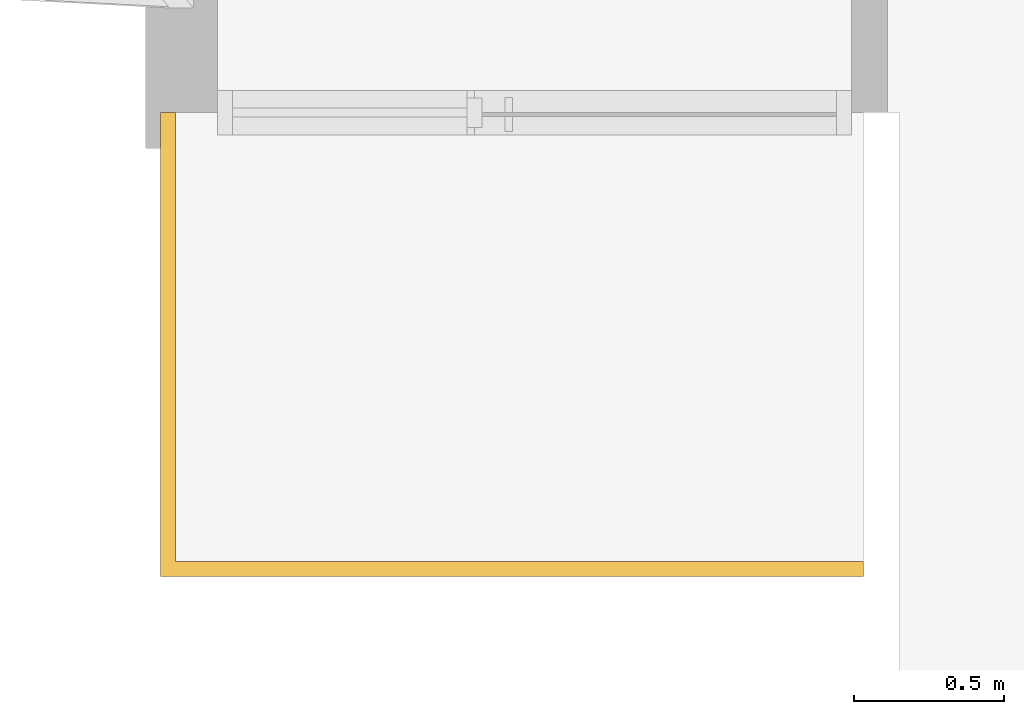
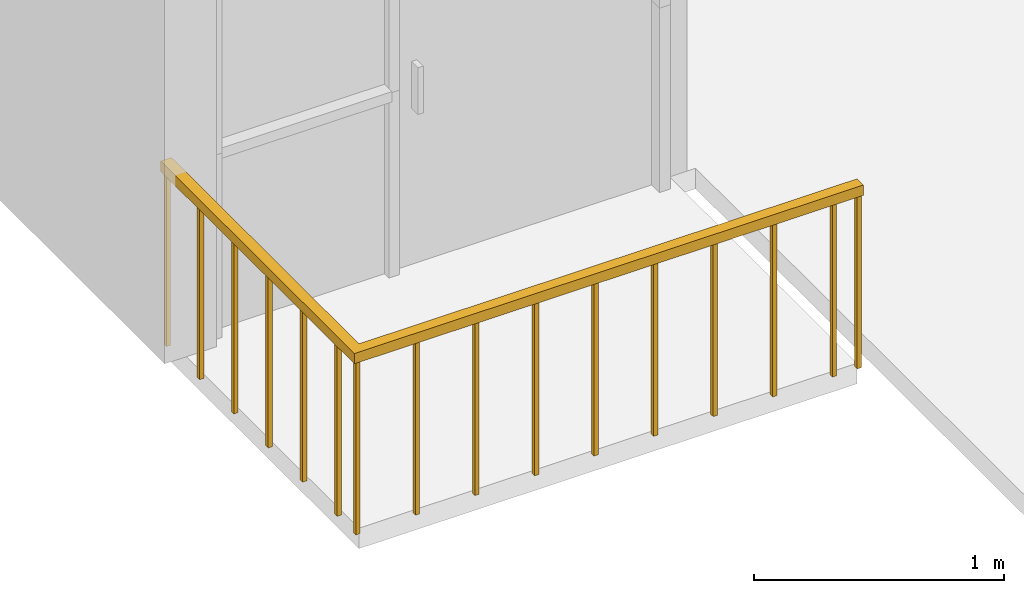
# One storey, part 32 of 33: 1 railing.
"""IFC2X3 building model written with IfcOpenShell, lengths in millimetres."""

from ifc_helpers import new_model, entity, si_unit, converted_unit, derived_unit, direction, frame, origin, place, context, subcontext, project, spatial, faceted_brep, material, element, save


model = new_model("IFC2X3")

# Units and contexts
model_context = context("Model", 3, precision=0.01, world=origin(), true_north=direction((6.12303176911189e-17, 1.0)))
body_context = subcontext(model_context, "Body", "Model", "MODEL_VIEW")
ifc_project = project(units=[si_unit("LENGTHUNIT", "METRE", prefix="MILLI"), si_unit("AREAUNIT", "SQUARE_METRE"), si_unit("VOLUMEUNIT", "CUBIC_METRE"), converted_unit("PLANEANGLEUNIT", "DEGREE", entity("IfcRatioMeasure", 0.0174532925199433), si_unit("PLANEANGLEUNIT", "RADIAN"), dimensions=[0, 0, 0, 0, 0, 0, 0]), si_unit("MASSUNIT", "GRAM", prefix="KILO"), derived_unit("MASSDENSITYUNIT", [(si_unit("MASSUNIT", "GRAM", prefix="KILO"), 1), (si_unit("LENGTHUNIT", "METRE"), -3)]), si_unit("TIMEUNIT", "SECOND"), si_unit("FREQUENCYUNIT", "HERTZ"), si_unit("THERMODYNAMICTEMPERATUREUNIT", "DEGREE_CELSIUS"), derived_unit("THERMALTRANSMITTANCEUNIT", [(si_unit("MASSUNIT", "GRAM", prefix="KILO"), 1), (si_unit("THERMODYNAMICTEMPERATUREUNIT", "KELVIN"), -1), (si_unit("TIMEUNIT", "SECOND"), -3)]), derived_unit("VOLUMETRICFLOWRATEUNIT", [(si_unit("LENGTHUNIT", "METRE"), 3), (si_unit("TIMEUNIT", "SECOND"), -1)]), si_unit("ELECTRICCURRENTUNIT", "AMPERE"), si_unit("ELECTRICVOLTAGEUNIT", "VOLT"), si_unit("POWERUNIT", "WATT"), si_unit("FORCEUNIT", "NEWTON", prefix="KILO"), si_unit("ILLUMINANCEUNIT", "LUX"), si_unit("LUMINOUSFLUXUNIT", "LUMEN"), si_unit("LUMINOUSINTENSITYUNIT", "CANDELA"), derived_unit("USERDEFINED", [(si_unit("MASSUNIT", "GRAM", prefix="KILO"), -1), (si_unit("LENGTHUNIT", "METRE"), -2), (si_unit("TIMEUNIT", "SECOND"), 3), (si_unit("LUMINOUSFLUXUNIT", "LUMEN"), 1)]), derived_unit("LINEARVELOCITYUNIT", [(si_unit("LENGTHUNIT", "METRE"), 1), (si_unit("TIMEUNIT", "SECOND"), -1)]), si_unit("PRESSUREUNIT", "PASCAL"), derived_unit("USERDEFINED", [(si_unit("LENGTHUNIT", "METRE"), -2), (si_unit("MASSUNIT", "GRAM", prefix="KILO"), 1), (si_unit("TIMEUNIT", "SECOND"), -2)])], contexts=[model_context])

# Site, building, storey
site_placement = place(None, origin())
site = spatial("IfcSite", under=ifc_project, at=site_placement, Name="表面", CompositionType="ELEMENT")
building_placement = place(site_placement, origin())
building = spatial("IfcBuilding", under=site, at=building_placement, CompositionType="ELEMENT")
storey_placement = place(building_placement, frame((0.0, 0.0, 6000.0)))
storey = spatial("IfcBuildingStorey", under=building, at=storey_placement, Name="3F", CompositionType="ELEMENT", Elevation=6000.00000000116)

# Railing
ifc_material = material(Name="不锈钢")
railing_placement = place(storey_placement, frame((-14500.2499126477, -30966.868426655, 0.0)))
element("IfcRailing", 1, at=railing_placement, inside=storey, material=ifc_material, Name="栏杆扶手:900mm", ObjectType="栏杆扶手:900mm", PredefinedType="NOTDEFINED", context=body_context, shape_type="Brep", body=[
    faceted_brep([(2215.0, 35.0, 850.0), (2215.0, 35.0, 0.0), (2215.0, 15.0, 0.0), (2215.0, 15.0, 850.0), (2235.0, 15.0, 0.0), (2235.0, 15.0, 850.0), (2235.0, 35.0, 0.0), (2235.0, 35.0, 850.0)], [[[0, 1, 2, 3]], [[3, 2, 4, 5]], [[5, 4, 6, 7]], [[1, 0, 7, 6]], [[0, 3, 5, 7]], [[2, 1, 6, 4]]]),
    faceted_brep([(1940.0, 35.0, 850.0), (1940.0, 35.0, 0.0), (1940.0, 15.0, 0.0), (1940.0, 15.0, 850.0), (1960.0, 15.0, 0.0), (1960.0, 15.0, 850.0), (1960.0, 35.0, 0.0), (1960.0, 35.0, 850.0)], [[[0, 1, 2, 3]], [[3, 2, 4, 5]], [[5, 4, 6, 7]], [[1, 0, 7, 6]], [[0, 3, 5, 7]], [[2, 1, 6, 4]]]),
    faceted_brep([(1665.0, 35.0, 850.0), (1665.0, 35.0, 0.0), (1665.0, 15.0, 0.0), (1665.0, 15.0, 850.0), (1685.0, 15.0, 0.0), (1685.0, 15.0, 850.0), (1685.0, 35.0, 0.0), (1685.0, 35.0, 850.0)], [[[0, 1, 2, 3]], [[3, 2, 4, 5]], [[5, 4, 6, 7]], [[1, 0, 7, 6]], [[0, 3, 5, 7]], [[2, 1, 6, 4]]]),
    faceted_brep([(1390.0, 35.0, 850.0), (1390.0, 35.0, 0.0), (1390.0, 15.0, 0.0), (1390.0, 15.0, 850.0), (1410.0, 15.0, 0.0), (1410.0, 15.0, 850.0), (1410.0, 35.0, 0.0), (1410.0, 35.0, 850.0)], [[[0, 1, 2, 3]], [[3, 2, 4, 5]], [[5, 4, 6, 7]], [[1, 0, 7, 6]], [[0, 3, 5, 7]], [[2, 1, 6, 4]]]),
    faceted_brep([(1115.0, 35.0, 850.0), (1115.0, 35.0, 0.0), (1115.0, 15.0, 0.0), (1115.0, 15.0, 850.0), (1135.0, 15.0, 0.0), (1135.0, 15.0, 850.0), (1135.0, 35.0, 0.0), (1135.0, 35.0, 850.0)], [[[0, 1, 2, 3]], [[3, 2, 4, 5]], [[5, 4, 6, 7]], [[1, 0, 7, 6]], [[0, 3, 5, 7]], [[2, 1, 6, 4]]]),
    faceted_brep([(840.0, 35.0, 850.0), (840.0, 35.0, 0.0), (840.0, 15.0, 0.0), (840.0, 15.0, 850.0), (860.0, 15.0, 0.0), (860.0, 15.0, 850.0), (860.0, 35.0, 0.0), (860.0, 35.0, 850.0)], [[[0, 1, 2, 3]], [[3, 2, 4, 5]], [[5, 4, 6, 7]], [[1, 0, 7, 6]], [[0, 3, 5, 7]], [[2, 1, 6, 4]]]),
    faceted_brep([(565.0, 35.0, 850.0), (565.0, 35.0, 0.0), (565.0, 15.0, 0.0), (565.0, 15.0, 850.0), (585.0, 15.0, 0.0), (585.0, 15.0, 850.0), (585.0, 35.0, 0.0), (585.0, 35.0, 850.0)], [[[0, 1, 2, 3]], [[3, 2, 4, 5]], [[5, 4, 6, 7]], [[1, 0, 7, 6]], [[0, 3, 5, 7]], [[2, 1, 6, 4]]]),
    faceted_brep([(290.0, 35.0, 850.0), (290.0, 35.0, 0.0), (290.0, 15.0, 0.0), (290.0, 15.0, 850.0), (310.0, 15.0, 0.0), (310.0, 15.0, 850.0), (310.0, 35.0, 0.0), (310.0, 35.0, 850.0)], [[[0, 1, 2, 3]], [[3, 2, 4, 5]], [[5, 4, 6, 7]], [[1, 0, 7, 6]], [[0, 3, 5, 7]], [[2, 1, 6, 4]]]),
    faceted_brep([(35.0, 185.0, 850.0), (35.0, 185.0, 0.0), (15.0, 185.0, 0.0), (15.0, 185.0, 850.0), (15.0, 165.0, 0.0), (15.0, 165.0, 850.0), (35.0, 165.0, 0.0), (35.0, 165.0, 850.0)], [[[0, 1, 2, 3]], [[3, 2, 4, 5]], [[5, 4, 6, 7]], [[1, 0, 7, 6]], [[0, 3, 5, 7]], [[2, 1, 6, 4]]]),
    faceted_brep([(35.0, 460.0, 850.0), (35.0, 460.0, 0.0), (15.0, 460.0, 0.0), (15.0, 460.0, 850.0), (15.0, 440.0, 0.0), (15.0, 440.0, 850.0), (35.0, 440.0, 0.0), (35.0, 440.0, 850.0)], [[[0, 1, 2, 3]], [[3, 2, 4, 5]], [[5, 4, 6, 7]], [[1, 0, 7, 6]], [[0, 3, 5, 7]], [[2, 1, 6, 4]]]),
    faceted_brep([(35.0, 735.0, 850.0), (35.0, 735.0, 0.0), (15.0, 735.0, 0.0), (15.0, 735.0, 850.0), (15.0, 715.0, 0.0), (15.0, 715.0, 850.0), (35.0, 715.0, 0.0), (35.0, 715.0, 850.0)], [[[0, 1, 2, 3]], [[3, 2, 4, 5]], [[5, 4, 6, 7]], [[1, 0, 7, 6]], [[0, 3, 5, 7]], [[2, 1, 6, 4]]]),
    faceted_brep([(35.0, 1010.0, 850.0), (35.0, 1010.0, 0.0), (15.0, 1010.0, 0.0), (15.0, 1010.0, 850.0), (15.0, 990.0, 0.0), (15.0, 990.0, 850.0), (35.0, 990.0, 0.0), (35.0, 990.0, 850.0)], [[[0, 1, 2, 3]], [[3, 2, 4, 5]], [[5, 4, 6, 7]], [[1, 0, 7, 6]], [[0, 3, 5, 7]], [[2, 1, 6, 4]]]),
    faceted_brep([(35.0, 1285.0, 850.0), (35.0, 1285.0, 0.0), (15.0, 1285.0, 0.0), (15.0, 1285.0, 850.0), (15.0, 1265.0, 0.0), (15.0, 1265.0, 850.0), (35.0, 1265.0, 0.0), (35.0, 1265.0, 850.0)], [[[0, 1, 2, 3]], [[3, 2, 4, 5]], [[5, 4, 6, 7]], [[1, 0, 7, 6]], [[0, 3, 5, 7]], [[2, 1, 6, 4]]]),
    faceted_brep([(35.0, 35.0, 850.0), (35.0, 35.0, 0.0), (15.0, 35.0, 0.0), (15.0, 35.0, 850.0), (15.0, 15.0, 0.0), (15.0, 15.0, 850.0), (35.0, 15.0, 0.0), (35.0, 15.0, 850.0)], [[[0, 1, 2, 3]], [[3, 2, 4, 5]], [[5, 4, 6, 7]], [[1, 0, 7, 6]], [[0, 3, 5, 7]], [[2, 1, 6, 4]]]),
    faceted_brep([(2330.0, 35.0, 850.0), (2330.0, 35.0, 0.0), (2330.0, 15.0, 0.0), (2330.0, 15.0, 850.0), (2350.0, 15.0, 0.0), (2350.0, 15.0, 850.0), (2350.0, 35.0, 0.0), (2350.0, 35.0, 850.0)], [[[0, 1, 2, 3]], [[3, 2, 4, 5]], [[5, 4, 6, 7]], [[1, 0, 7, 6]], [[0, 3, 5, 7]], [[2, 1, 6, 4]]]),
    faceted_brep([(35.0, 1550.0, 850.0), (35.0, 1550.0, 0.0), (15.0, 1550.0, 0.0), (15.0, 1550.0, 850.0), (15.0, 1530.0, 0.0), (15.0, 1530.0, 850.0), (35.0, 1530.0, 0.0), (35.0, 1530.0, 850.0)], [[[0, 1, 2, 3]], [[3, 2, 4, 5]], [[5, 4, 6, 7]], [[1, 0, 7, 6]], [[0, 3, 5, 7]], [[2, 1, 6, 4]]]),
    faceted_brep([(0.0, 1550.0, 900.0), (50.0, 1550.0, 900.0), (50.0, 1550.0, 850.0), (0.0, 1550.0, 850.0), (0.0, 0.0, 900.0), (50.0, 50.0, 900.0), (50.0, 50.0, 850.0), (0.0, 0.0, 850.0), (2350.0, 0.0, 900.0), (2350.0, 0.0, 850.0), (2350.0, 50.0, 850.0), (2350.0, 50.0, 900.0)], [[[0, 1, 2, 3]], [[1, 0, 4, 5]], [[2, 1, 5, 6]], [[3, 2, 6, 7]], [[0, 3, 7, 4]], [[8, 9, 10, 11]], [[5, 4, 8, 11]], [[6, 5, 11, 10]], [[7, 6, 10, 9]], [[4, 7, 9, 8]]]),
])

save(model, "model.ifc")
